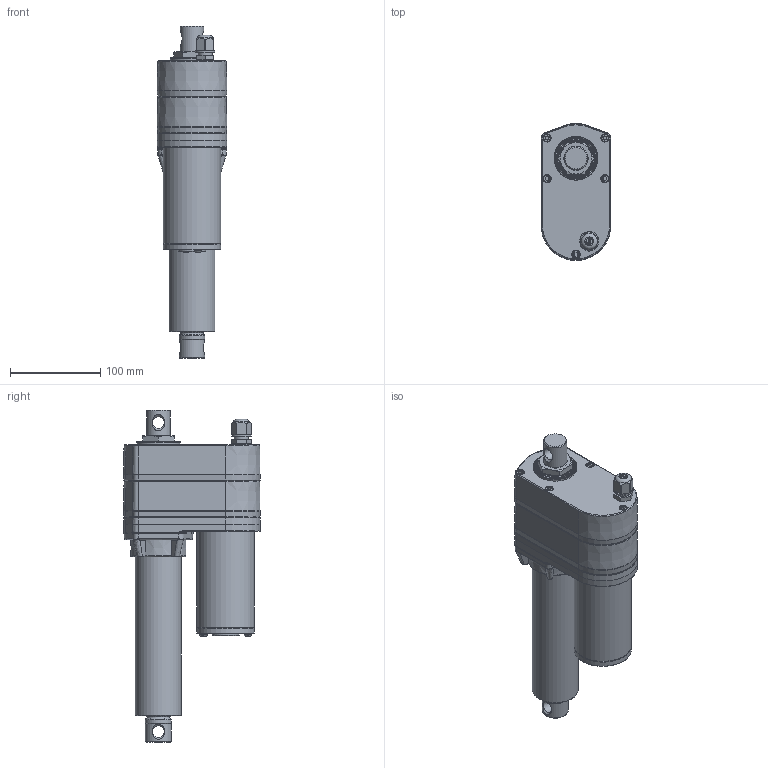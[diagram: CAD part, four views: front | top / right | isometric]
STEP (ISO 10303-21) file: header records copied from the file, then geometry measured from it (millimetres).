
FILE_DESCRIPTION (( 'STEP AP203' ), '1' );
FILE_NAME ('ID10II-B-With POT-102.STEP', '2014-06-10T10:15:02', ( '' ), ( '' ), 'SwSTEP 2.0', 'SolidWorks 2013', '' );
FILE_SCHEMA (( 'CONFIG_CONTROL_DESIGN' ));
Length unit declared in the file: millimetre
Products named in the file (3): ID10II-B-With POT-102-1; ID10II-B-With POT-102-2; ID10II-B-With POT-102
Assembly tree (2 placements, depth 2):
  ID10II-B-With POT-102
    ID10II-B-With POT-102-1
    ID10II-B-With POT-102-2
Bounding box: 77.15 x 151.65 x 367.7 mm (x, y, z)
Volume: 1885016.7 mm3; surface area: 157209.9 mm2
Topology: 2 solids, 2 shells, 876 faces, 2279 edges, 1449 vertices
Faces by surface type: plane 553, cylinder 164, torus 66, bspline 46, cone 45, sphere 2
Full cylindrical faces by diameter (mm): 0.05 x1, 1.6 x2, 7.2 x1, 8.5 x7, 9 x5, 13 x2, 15.75 x2, 21.6 x1, 26 x1, 28 x1, 28.1 x1, 28.6 x4, 28.62 x1, 30 x1, 48.2 x1, 50.8 x1, 63 x1, 63.5 x2
Entity records: 29003 total; most frequent: CARTESIAN_POINT 9451, ORIENTED_EDGE 4388, DIRECTION 3628, EDGE_CURVE 2194, VERTEX_POINT 1426, AXIS2_PLACEMENT_3D 1331, EDGE_LOOP 984, LINE 966
